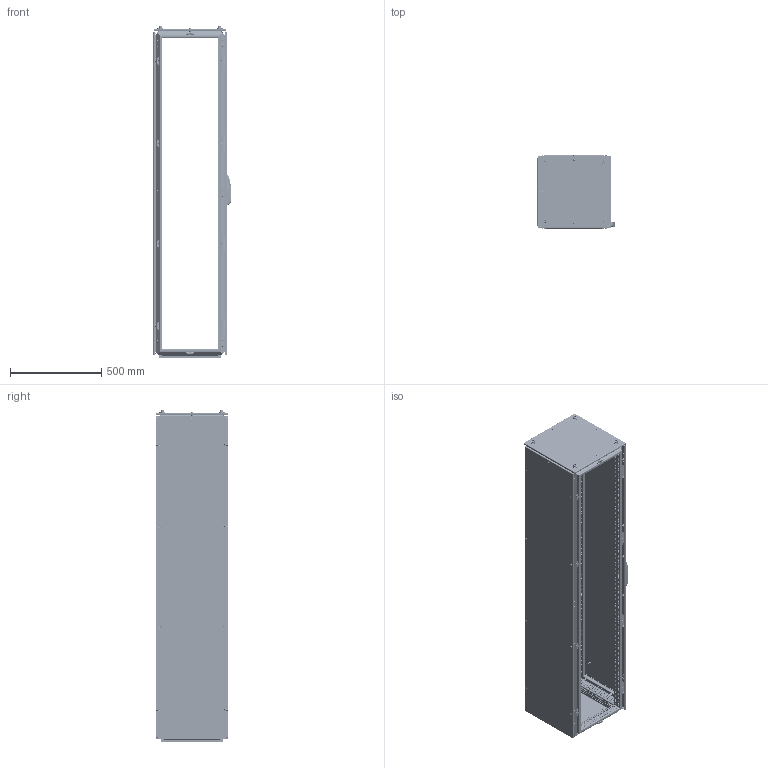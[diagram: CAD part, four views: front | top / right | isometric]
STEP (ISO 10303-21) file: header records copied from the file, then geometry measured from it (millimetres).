
FILE_DESCRIPTION(('STEP AP203'), '1');
FILE_NAME('ØÍÑ ÊÑ PRO II Êîðïóñ ÑÁ', '', ('UNSPECIFIED'), ('UNSPECIFIED'), 'C3D Converter', 'C3D Toolkit', '');
FILE_SCHEMA(('CONFIG_CONTROL_DESIGN'));
Length unit declared in the file: millimetre
Products named in the file (49): 3110.180.40.40; 3000; 3007.175; 3007.75; 3009.04; 3009.04.01; 3009.04.2; 3009.04.01.2; 3301; 3310; 3311; 3302; 3211; 3410; 3420; 3421; 3422.01; 3412; 3411; 2952; 3009.05; 3009.05.01; 3622.01; 3009.08; 3009.08.01
Assembly tree (250 placements, depth 5):
  3110.180.40.40
    3000
      3000
      (unnamed)  x72
      3007.175
      (unnamed)  x6
      3007.75
      3009.04  x4
        3009.04.01
        (unnamed)
        (unnamed)
      3009.04.2  x11
        3009.04.01.2
        (unnamed)
        (unnamed)
    3301
      3310
        3311
        (unnamed)
      (unnamed)  x4
      (unnamed)  x4
      (unnamed)  x4
      (unnamed)  x4
    3302
      3211
      (unnamed)  x2
      (unnamed)  x10
    3410
      3420
        3421
        3422.01  x4
        (unnamed)  x12
        (unnamed)  x8
        (unnamed)  x2
      3412  x2
      3411  x2
      (unnamed)  x4
      (unnamed)  x12
      (unnamed)  x20
      (unnamed)  x8
      2952
        (unnamed)
          (unnamed)
          (unnamed)
          (unnamed)
          (unnamed)
          (unnamed)
      (unnamed)  x2
      3009.05  x4
        3009.05.01
        (unnamed)
        (unnamed)
      3622.01  x4
      (unnamed)  x4
      3009.08  x4
        3009.08.01
        (unnamed)
        (unnamed)
Bounding box: 424.04 x 397.07 x 1816 mm (x, y, z)
Volume: 6268802 mm3; surface area: 7887892.4 mm2
Topology: 325 solids, 325 shells, 17814 faces, 48594 edges, 31880 vertices
Faces by surface type: plane 11973, cylinder 4328, cone 965, torus 334, bspline 191, sphere 23
Full cylindrical faces by diameter (mm): 0.5 x20, 4.134 x106, 4.3 x2, 4.5 x1578, 4.8 x6, 4.917 x20, 5 x140, 5.2 x1, 5.5 x4, 5.8 x34, 6 x47, 6.1 x4, 6.6 x20, 6.75 x20, 6.8 x144, 7 x80, 7.3 x20, 7.5 x54, 8 x90, 8.3 x16, 8.5 x5, 9.2 x58, 10 x25, 10.106 x8, 10.5 x4, 11.5 x10, 12 x28, 13 x1, 13.5 x4, 14 x8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
Entity records: 387685 total; most frequent: CARTESIAN_POINT 88761, ORIENTED_EDGE 57004, DIRECTION 54252, EDGE_CURVE 28502, LINE 22178, VECTOR 22178, VERTEX_POINT 19841, EDGE_LOOP 18735
